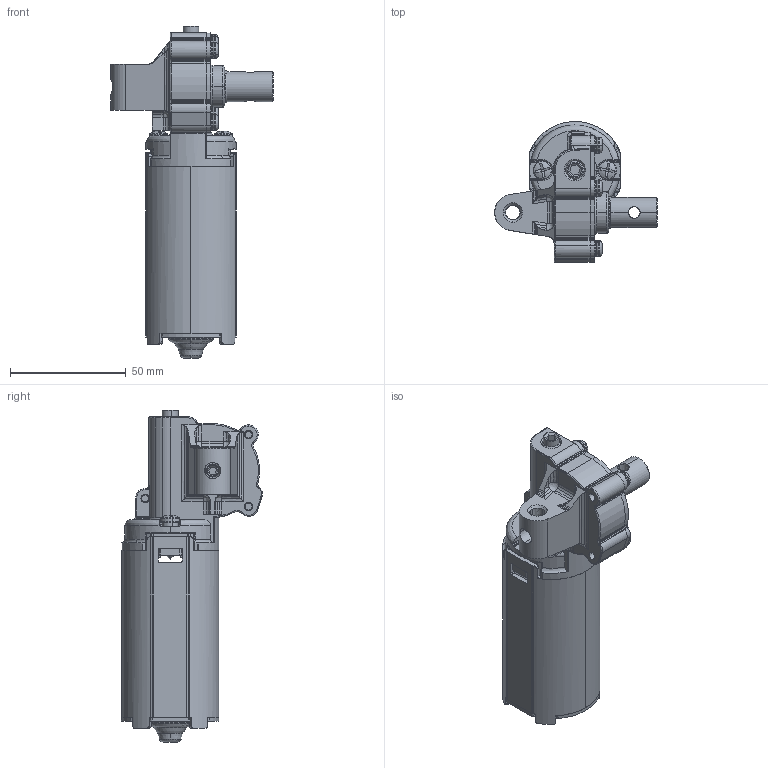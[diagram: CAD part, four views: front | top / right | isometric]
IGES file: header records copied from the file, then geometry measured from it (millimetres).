
Global section: file name: No Iges File Name specified; native system: AutoDesk Inventor R10; preprocessor: AutoDesk Inventor Iges Exporter R10; author: No Author specified; organization: No Organization specified; date: 20050815.131514; units: millimetre
Bounding box: 70.1 x 60.8 x 143.12 mm (x, y, z)
Volume: 69753.4 mm3; surface area: 54528.5 mm2
Topology: 16 solids, 16 shells, 1819 faces, 4770 edges, 3007 vertices
Faces by surface type: revolution 523, plane 458, cylinder 417, bspline 367, cone 44, sphere 10
